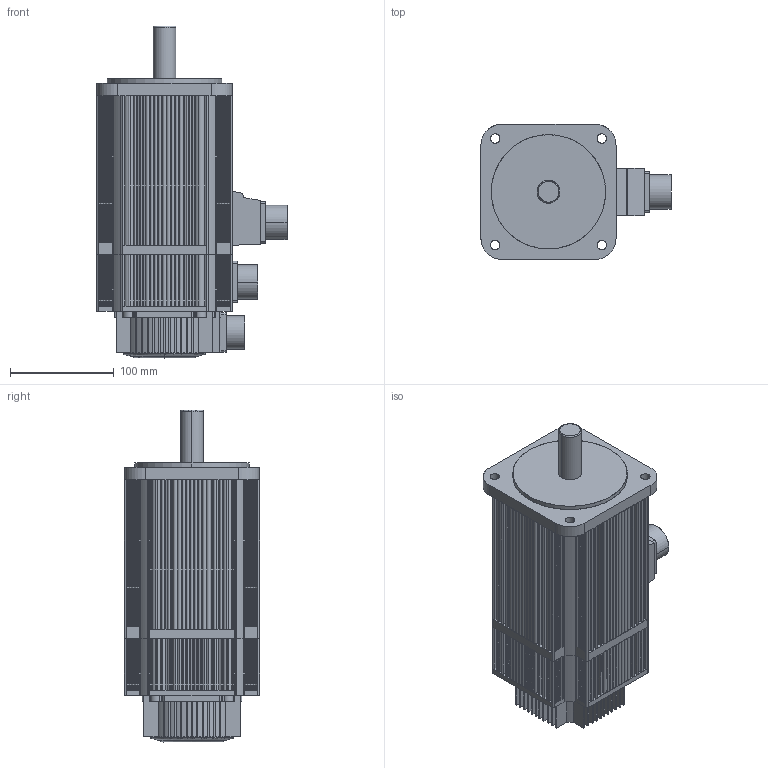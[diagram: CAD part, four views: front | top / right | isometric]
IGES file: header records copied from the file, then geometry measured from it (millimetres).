
Start section: SolidWorks IGES file using analytic representation for surfaces
Global section: file name: 1HD:\estun\qianronghua\2011.2.12（张）\电机外观文件（EMJ02A归档）-2011.2.14\EMJ系列电机3D外观归档.IGS-2011.2.14\EML-10\EML10=EMG20 With holding brake.IGS; native system: SolidWorks 2011; preprocessor: SolidWorks 2011; author: qianronghua; date: 110401.162828; units: millimetre
Bounding box: 183 x 130 x 319.5 mm (x, y, z)
Surface area: 300935.5 mm2 (no closed solid volume)
Topology: 0 solids, 0 shells, 1418 faces, 14307 edges, 14299 vertices
Faces by surface type: bspline 859, revolution 559
